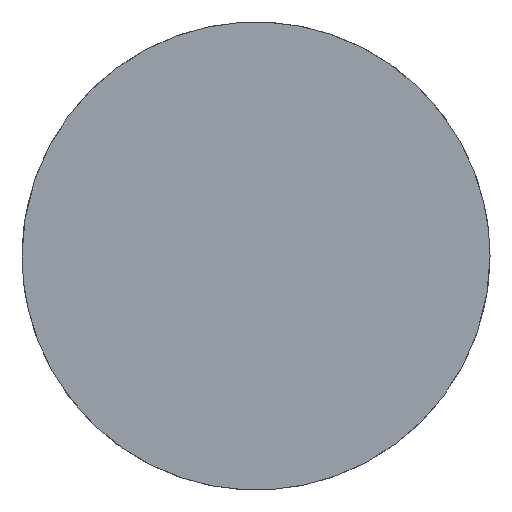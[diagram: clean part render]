
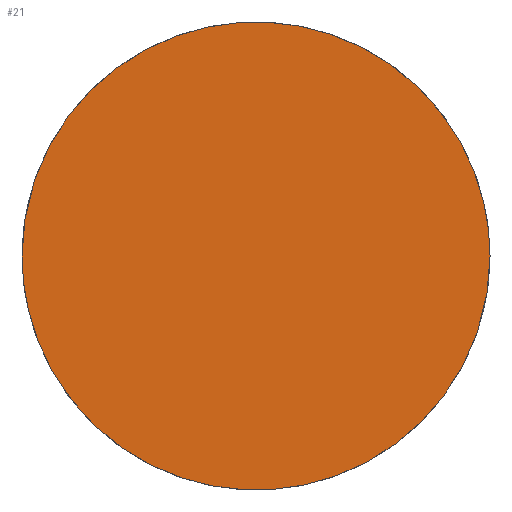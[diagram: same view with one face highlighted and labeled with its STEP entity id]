
A CAD part, top view. The second image highlights one B-rep face of the part: STEP entity #21.
In plain terms, the highlighted planar face has unit normal (0, 0, 1).
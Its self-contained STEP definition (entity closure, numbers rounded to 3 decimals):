
#21=ADVANCED_FACE($,(#46),#282,.T.);
#46=FACE_OUTER_BOUND($,#71,.T.);
#71=EDGE_LOOP($,(#99,#100));
#99=ORIENTED_EDGE($,*,*,#201,.F.);
#100=ORIENTED_EDGE($,*,*,#197,.F.);
#197=EDGE_CURVE($,#248,#250,#342,.T.);
#201=EDGE_CURVE($,#250,#248,#344,.T.);
#248=VERTEX_POINT($,#532);
#250=VERTEX_POINT($,#534);
#282=PLANE($,#446);
#342=(
BOUNDED_CURVE()
B_SPLINE_CURVE(2,(#486,#487,#488,#489,#490),.UNSPECIFIED.,.F.,.F.)
B_SPLINE_CURVE_WITH_KNOTS((3,2,3),(0.,942.478,1884.956),
.UNSPECIFIED.)
CURVE()
GEOMETRIC_REPRESENTATION_ITEM()
RATIONAL_B_SPLINE_CURVE((1.,0.707,1.,0.707,1.))
REPRESENTATION_ITEM($)
);
#344=(
BOUNDED_CURVE()
B_SPLINE_CURVE(2,(#500,#501,#502,#503,#504),.UNSPECIFIED.,.F.,.F.)
B_SPLINE_CURVE_WITH_KNOTS((3,2,3),(1884.956,2827.433,3769.911),
.UNSPECIFIED.)
CURVE()
GEOMETRIC_REPRESENTATION_ITEM()
RATIONAL_B_SPLINE_CURVE((1.,0.707,1.,0.707,1.))
REPRESENTATION_ITEM($)
);
#446=AXIS2_PLACEMENT_3D($,#520,#466,$);
#466=DIRECTION($,(0.,0.,1.));
#486=CARTESIAN_POINT($,(1200.,600.,312.));
#487=CARTESIAN_POINT($,(1200.,0.,312.));
#488=CARTESIAN_POINT($,(600.,0.,312.));
#489=CARTESIAN_POINT($,(0.,0.,312.));
#490=CARTESIAN_POINT($,(0.,600.,312.));
#500=CARTESIAN_POINT($,(0.,600.,312.));
#501=CARTESIAN_POINT($,(0.,1200.,312.));
#502=CARTESIAN_POINT($,(600.,1200.,312.));
#503=CARTESIAN_POINT($,(1200.,1200.,312.));
#504=CARTESIAN_POINT($,(1200.,600.,312.));
#520=CARTESIAN_POINT($,(0.,0.,312.));
#532=CARTESIAN_POINT($,(1200.,600.,312.));
#534=CARTESIAN_POINT($,(0.,600.,312.));
